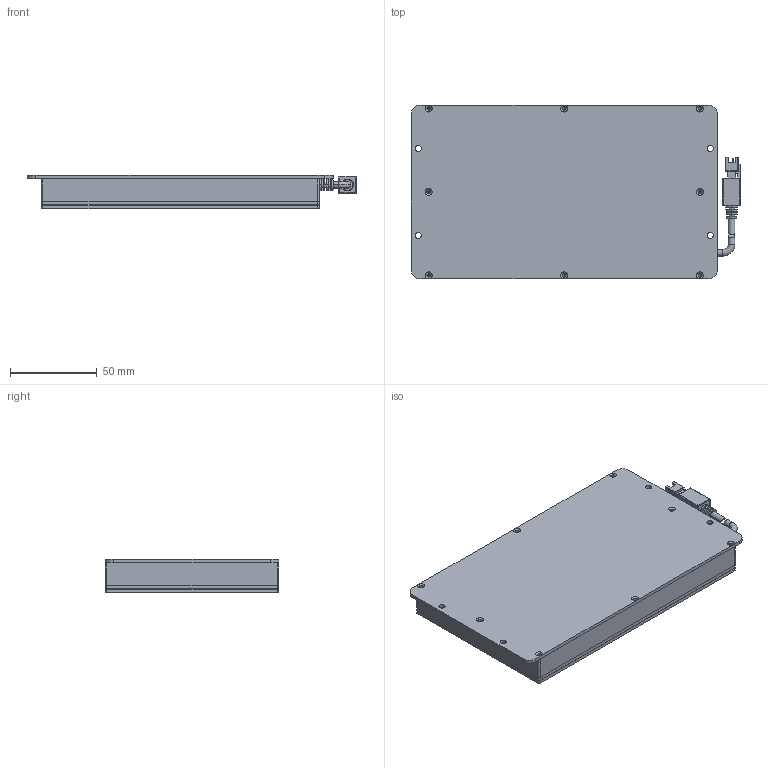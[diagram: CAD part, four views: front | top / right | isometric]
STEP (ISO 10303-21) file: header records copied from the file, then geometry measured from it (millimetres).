
FILE_DESCRIPTION (( 'STEP AP203' ), '1' );
FILE_NAME ('PPX-PBO160100-W.STEP', '2022-03-14T03:26:44', ( 'China' ), ( 'Home' ), 'SwSTEP 2.0', 'SolidWorks 2016', '' );
FILE_SCHEMA (( 'CONFIG_CONTROL_DESIGN' ));
Length unit declared in the file: millimetre
Products named in the file (8): PPX-PBO160100-W; PPX-BO160100-M3; 謗郋萇埭盄 ㄗ譫傷ㄘ; PPX-BO160100菁啣; PPX-ZBO150150-Z-A1.0PCB啣ㄗ綻ㄘ; PPX-BO160100翋啣; PPX-PBO160100-MP; PPX-PBO160100-M0
Assembly tree (8 placements, depth 2):
  PPX-PBO160100-W
    PPX-BO160100菁啣
    PPX-BO160100翋啣
    PPX-BO160100-M3
    謗郋萇埭盄 ㄗ譫傷ㄘ
    PPX-ZBO150150-Z-A1.0PCB啣ㄗ綻ㄘ  x2
    PPX-PBO160100-MP
    PPX-PBO160100-M0
Bounding box: 189.55 x 100 x 19.1 mm (x, y, z)
Volume: 150149.5 mm3; surface area: 175803.7 mm2
Topology: 9 solids, 9 shells, 1442 faces, 3565 edges, 2311 vertices
Faces by surface type: plane 1092, cylinder 240, cone 88, torus 16, sphere 4, bspline 2
Entity records: 29966 total; most frequent: CARTESIAN_POINT 5186, DIRECTION 4949, ORIENTED_EDGE 4844, EDGE_CURVE 2422, VECTOR 1841, LINE 1841, VERTEX_POINT 1573, AXIS2_PLACEMENT_3D 1554
